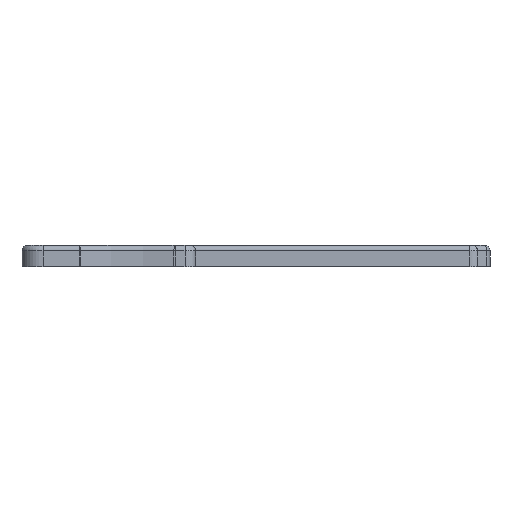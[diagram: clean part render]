
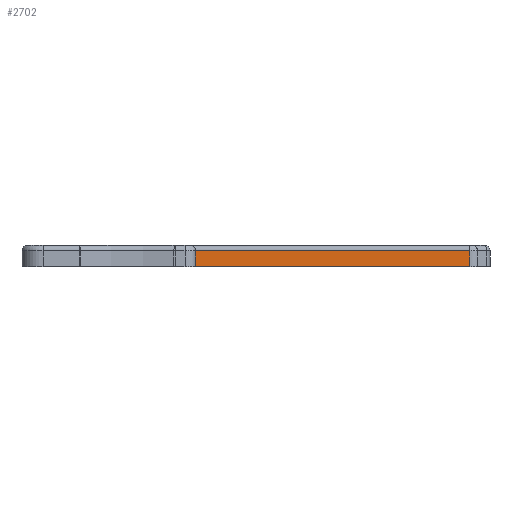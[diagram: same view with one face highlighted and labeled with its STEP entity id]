
A CAD part, left-side view. The second image highlights one B-rep face of the part: STEP entity #2702.
In plain terms, the highlighted planar face has unit normal (-1, 0, 0).
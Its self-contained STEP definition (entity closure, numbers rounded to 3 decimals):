
#843=DIRECTION('',(0.,0.,-1.));
#844=VECTOR('',#843,1.5);
#845=CARTESIAN_POINT('',(293.5,36.267,8.154));
#846=LINE('',#845,#844);
#992=DIRECTION('',(0.,1.,0.));
#993=VECTOR('',#992,26.086);
#994=CARTESIAN_POINT('',(293.5,36.267,8.154));
#995=LINE('',#994,#993);
#996=DIRECTION('',(0.,1.,0.));
#997=VECTOR('',#996,26.086);
#998=CARTESIAN_POINT('',(293.5,36.267,6.654));
#999=LINE('',#998,#997);
#1000=DIRECTION('',(0.,0.,1.));
#1001=VECTOR('',#1000,1.5);
#1002=CARTESIAN_POINT('',(293.5,62.353,6.654));
#1003=LINE('',#1002,#1001);
#1092=CARTESIAN_POINT('',(293.5,62.353,6.654));
#1094=VERTEX_POINT('',#1092);
#1151=CARTESIAN_POINT('',(293.5,62.353,8.154));
#1152=VERTEX_POINT('',#1151);
#1255=CARTESIAN_POINT('',(293.5,36.267,6.654));
#1257=VERTEX_POINT('',#1255);
#1279=CARTESIAN_POINT('',(293.5,36.267,8.154));
#1281=VERTEX_POINT('',#1279);
#2691=CARTESIAN_POINT('',(293.5,43.396,7.841));
#2692=DIRECTION('',(-1.,0.,0.));
#2693=DIRECTION('',(0.,1.,0.));
#2694=AXIS2_PLACEMENT_3D('',#2691,#2692,#2693);
#2695=PLANE('',#2694);
#2696=ORIENTED_EDGE('',*,*,#2685,.F.);
#2697=ORIENTED_EDGE('',*,*,#2423,.T.);
#2698=ORIENTED_EDGE('',*,*,#1456,.T.);
#2699=ORIENTED_EDGE('',*,*,#2099,.T.);
#2700=EDGE_LOOP('',(#2696,#2697,#2698,#2699));
#2701=FACE_OUTER_BOUND('',#2700,.F.);
#1456=EDGE_CURVE('',#1257,#1094,#999,.T.);
#2099=EDGE_CURVE('',#1094,#1152,#1003,.T.);
#2423=EDGE_CURVE('',#1281,#1257,#846,.T.);
#2685=EDGE_CURVE('',#1281,#1152,#995,.T.);
#2702=ADVANCED_FACE('',(#2701),#2695,.T.);
